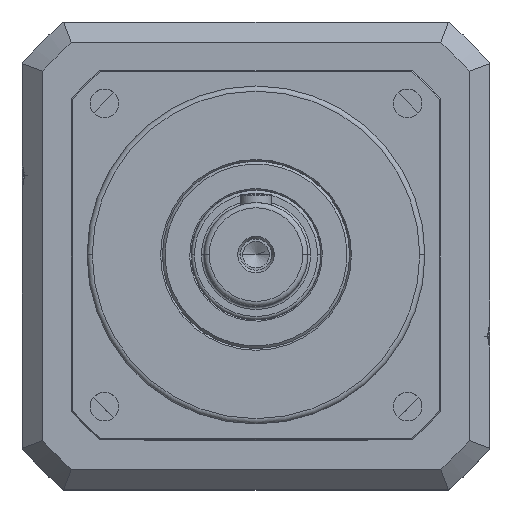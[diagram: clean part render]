
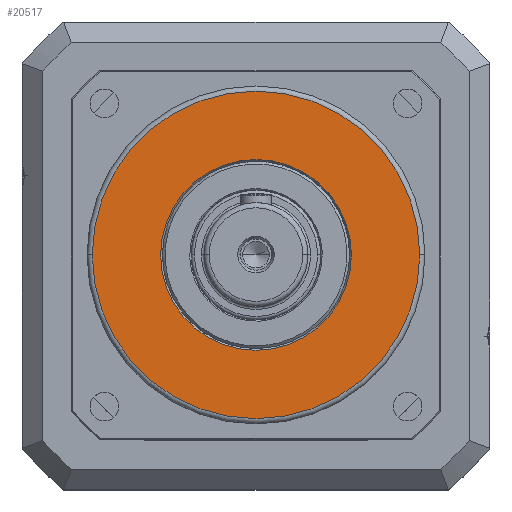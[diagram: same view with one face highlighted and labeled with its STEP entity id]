
A CAD part, top view. The second image highlights one B-rep face of the part: STEP entity #20517.
In plain terms, the highlighted planar face has unit normal (0, 0, 1).
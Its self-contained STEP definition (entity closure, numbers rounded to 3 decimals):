
#1307 = CARTESIAN_POINT ( 'NONE',  ( 0., 0., 15. ) ) ;
#2439 = ORIENTED_EDGE ( 'NONE', *, *, #16809, .T. ) ;
#2693 = AXIS2_PLACEMENT_3D ( 'NONE', #4884, #13027, #18891 ) ;
#3671 = VERTEX_POINT ( 'NONE', #18741 ) ;
#3716 = FACE_BOUND ( 'NONE', #21656, .T. ) ;
#4884 = CARTESIAN_POINT ( 'NONE',  ( 0., 0., 15. ) ) ;
#5003 = AXIS2_PLACEMENT_3D ( 'NONE', #1307, #17296, #7696 ) ;
#5115 = DIRECTION ( 'NONE',  ( 1., 0., 0. ) ) ;
#6648 = VERTEX_POINT ( 'NONE', #16235 ) ;
#6931 = VERTEX_POINT ( 'NONE', #19139 ) ;
#7393 = CIRCLE ( 'NONE', #2693, 63. ) ;
#7696 = DIRECTION ( 'NONE',  ( 1., 0., 0. ) ) ;
#8658 = AXIS2_PLACEMENT_3D ( 'NONE', #19677, #17813, #9947 ) ;
#8861 = DIRECTION ( 'NONE',  ( 0., 0., -1. ) ) ;
#9470 = ORIENTED_EDGE ( 'NONE', *, *, #18390, .T. ) ;
#9947 = DIRECTION ( 'NONE',  ( 1., 0., 0. ) ) ;
#10357 = CARTESIAN_POINT ( 'NONE',  ( -63., 0., 15. ) ) ;
#10637 = VERTEX_POINT ( 'NONE', #10357 ) ;
#11814 = EDGE_LOOP ( 'NONE', ( #2439, #18831 ) ) ;
#11860 = CARTESIAN_POINT ( 'NONE',  ( 0., 0., 15. ) ) ;
#12990 = AXIS2_PLACEMENT_3D ( 'NONE', #14983, #8861, #5115 ) ;
#13027 = DIRECTION ( 'NONE',  ( 0., 0., 1. ) ) ;
#13098 = CIRCLE ( 'NONE', #5003, 63. ) ;
#14615 = CIRCLE ( 'NONE', #8658, 36.7 ) ;
#14983 = CARTESIAN_POINT ( 'NONE',  ( 0., 0., 15. ) ) ;
#16235 = CARTESIAN_POINT ( 'NONE',  ( 36.7, 0., 15. ) ) ;
#16809 = EDGE_CURVE ( 'NONE', #6931, #10637, #7393, .T. ) ;
#16952 = EDGE_CURVE ( 'NONE', #3671, #6648, #14615, .T. ) ;
#17296 = DIRECTION ( 'NONE',  ( 0., 0., 1. ) ) ;
#17598 = FACE_OUTER_BOUND ( 'NONE', #11814, .T. ) ;
#17813 = DIRECTION ( 'NONE',  ( 0., 0., -1. ) ) ;
#18390 = EDGE_CURVE ( 'NONE', #6648, #3671, #21470, .T. ) ;
#18741 = CARTESIAN_POINT ( 'NONE',  ( -36.7, 0., 15. ) ) ;
#18831 = ORIENTED_EDGE ( 'NONE', *, *, #20801, .T. ) ;
#18891 = DIRECTION ( 'NONE',  ( 1., 0., 0. ) ) ;
#19014 = ORIENTED_EDGE ( 'NONE', *, *, #16952, .T. ) ;
#19139 = CARTESIAN_POINT ( 'NONE',  ( 63., 0., 15. ) ) ;
#19677 = CARTESIAN_POINT ( 'NONE',  ( 0., 0., 15. ) ) ;
#19986 = DIRECTION ( 'NONE',  ( 0., 0., 1. ) ) ;
#20517 = ADVANCED_FACE ( 'NONE', ( #3716, #17598 ), #25522, .T. ) ;
#20801 = EDGE_CURVE ( 'NONE', #10637, #6931, #13098, .T. ) ;
#21470 = CIRCLE ( 'NONE', #12990, 36.7 ) ;
#21656 = EDGE_LOOP ( 'NONE', ( #9470, #19014 ) ) ;
#22019 = AXIS2_PLACEMENT_3D ( 'NONE', #11860, #19986, #25648 ) ;
#25522 = PLANE ( 'NONE',  #22019 ) ;
#25648 = DIRECTION ( 'NONE',  ( 1., 0., 0. ) ) ;
